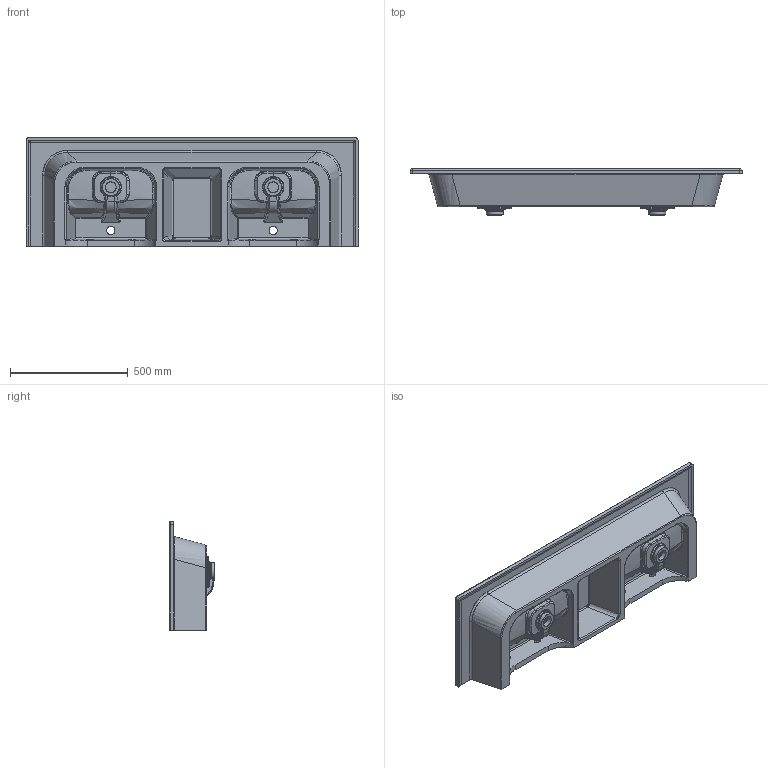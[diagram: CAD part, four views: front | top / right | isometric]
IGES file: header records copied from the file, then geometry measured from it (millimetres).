
Start section: SolidWorks IGES file using NURBS representation for surfaces
Global section: file name: C:\Work\NEW 2017\TECLA 2017\THESAN 140 2017\TH06011 OK.IGS; native system: SolidWorks 2017; preprocessor: SolidWorks 2017; author: m.cicconi; date: 170712.111424; units: millimetre
Bounding box: 1410 x 195 x 460 mm (x, y, z)
Surface area: 2307552.8 mm2 (no closed solid volume)
Topology: 0 solids, 0 shells, 606 faces, 4267 edges, 5562 vertices
Faces by surface type: bspline 606
